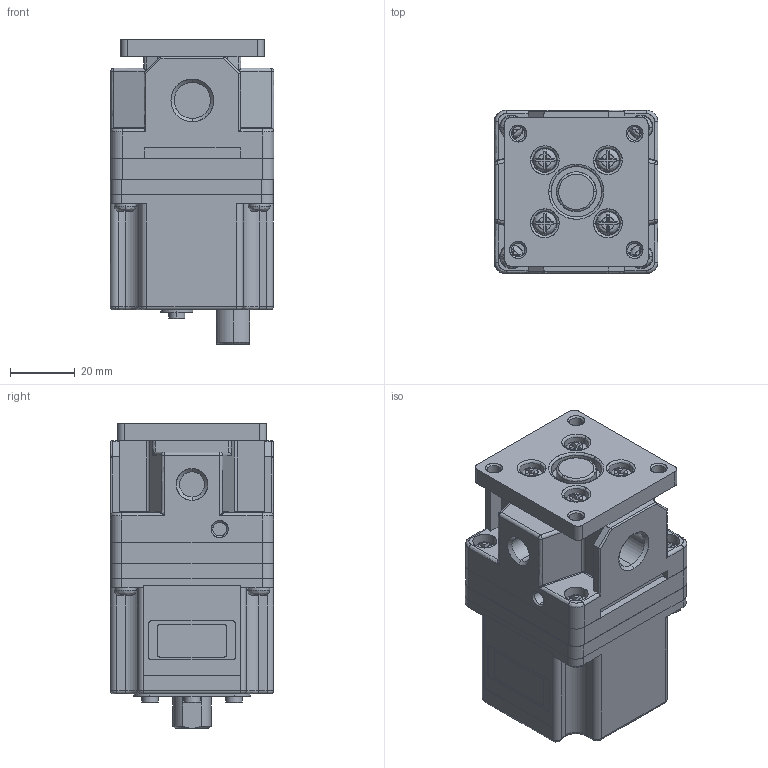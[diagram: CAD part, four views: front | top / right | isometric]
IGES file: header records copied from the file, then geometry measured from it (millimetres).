
Start section: SolidWorks IGES file using analytic representation for surfaces
Global section: file name: C:\Salvar\Planos Compartidos\Regulador de Pres. Prop\NITV2050-01F2CL.IGS; native system: SolidWorks 2021; preprocessor: SolidWorks 2021; author: osval; date: 210212.102630; units: millimetre
Bounding box: 50.6 x 50.4 x 94.43 mm (x, y, z)
Surface area: 43167 mm2 (no closed solid volume)
Topology: 0 solids, 0 shells, 620 faces, 6174 edges, 6166 vertices
Faces by surface type: bspline 412, revolution 208
